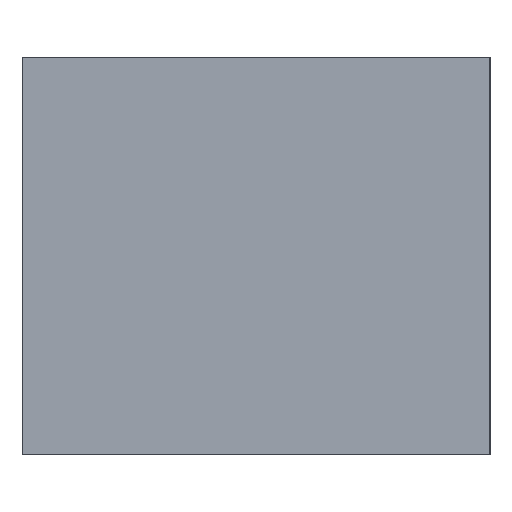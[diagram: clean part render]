
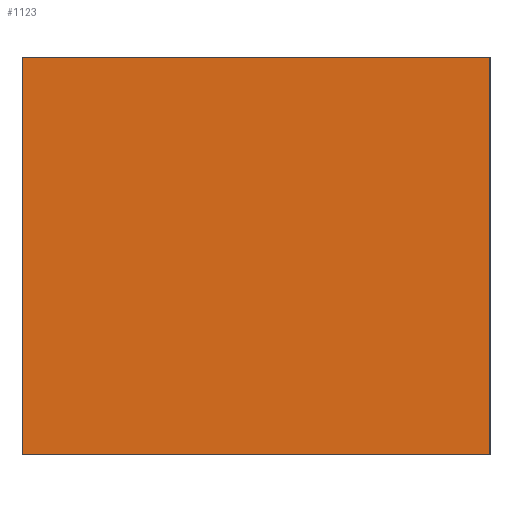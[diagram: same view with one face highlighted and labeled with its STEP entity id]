
A CAD part, left-side view. The second image highlights one B-rep face of the part: STEP entity #1123.
In plain terms, the highlighted planar face has unit normal (-1, 0, 0).
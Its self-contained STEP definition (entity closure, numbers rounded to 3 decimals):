
#22=DIRECTION('',(0.,0.,-1.));
#23=VECTOR('',#22,90.);
#24=CARTESIAN_POINT('',(-80.,-53.,0.));
#25=LINE('',#24,#23);
#226=DIRECTION('',(0.,0.,-1.));
#227=VECTOR('',#226,90.);
#228=CARTESIAN_POINT('',(-80.,53.,0.));
#229=LINE('',#228,#227);
#248=DIRECTION('',(0.,1.,0.));
#249=VECTOR('',#248,106.);
#250=CARTESIAN_POINT('',(-80.,-53.,-90.));
#251=LINE('',#250,#249);
#268=DIRECTION('',(0.,-1.,0.));
#269=VECTOR('',#268,106.);
#270=CARTESIAN_POINT('',(-80.,53.,0.));
#271=LINE('',#270,#269);
#606=CARTESIAN_POINT('',(-80.,-53.,0.));
#607=VERTEX_POINT('',#606);
#608=CARTESIAN_POINT('',(-80.,-53.,-90.));
#609=VERTEX_POINT('',#608);
#610=CARTESIAN_POINT('',(-80.,53.,0.));
#611=CARTESIAN_POINT('',(-80.,53.,-90.));
#612=VERTEX_POINT('',#610);
#613=VERTEX_POINT('',#611);
#1110=CARTESIAN_POINT('',(-80.,0.,-90.));
#1111=DIRECTION('',(-1.,0.,0.));
#1112=DIRECTION('',(0.,0.,1.));
#1113=AXIS2_PLACEMENT_3D('',#1110,#1111,#1112);
#1114=PLANE('',#1113);
#1115=ORIENTED_EDGE('',*,*,#771,.T.);
#1117=ORIENTED_EDGE('',*,*,#1116,.T.);
#1118=ORIENTED_EDGE('',*,*,#867,.F.);
#1120=ORIENTED_EDGE('',*,*,#1119,.T.);
#1121=EDGE_LOOP('',(#1115,#1117,#1118,#1120));
#1122=FACE_OUTER_BOUND('',#1121,.F.);
#771=EDGE_CURVE('',#607,#609,#25,.T.);
#867=EDGE_CURVE('',#612,#613,#229,.T.);
#1116=EDGE_CURVE('',#609,#613,#251,.T.);
#1119=EDGE_CURVE('',#612,#607,#271,.T.);
#1123=ADVANCED_FACE('',(#1122),#1114,.T.);
